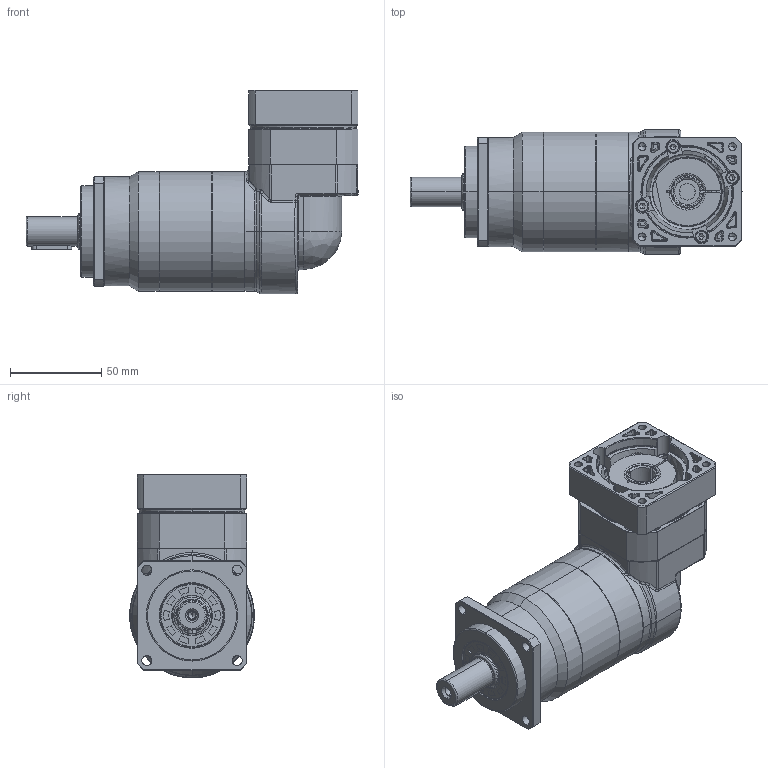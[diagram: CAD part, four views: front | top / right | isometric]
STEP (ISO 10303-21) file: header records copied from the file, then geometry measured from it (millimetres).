
FILE_DESCRIPTION (( 'STEP AP214' ), '1' );
FILE_NAME ('EVB060-L2-S2-P1 14-50-70-M5-33.STEP', '2025-01-09T08:06:05', ( '微软用户' ), ( '微软中国' ), 'SwSTEP 2.0', 'SolidWorks 2021', '' );
FILE_SCHEMA (( 'AUTOMOTIVE_DESIGN' ));
Length unit declared in the file: millimetre
Products named in the file (4): EVT060D-L2-8-38.1-66.7-M4-33; EVB060D-L2-S2-14-50-70-M5-33; EVB060-L2-S2-P1 14-50-70-M5-33; 3.EVT064F眻褒眊极_step_stp_stp.stp
Assembly tree (7 placements, depth 2):
  EVB060-L2-S2-P1 14-50-70-M5-33
    EVB060D-L2-S2-14-50-70-M5-33
    3.EVT064F眻褒眊极_step_stp_stp.stp
    EVT060D-L2-8-38.1-66.7-M4-33  x5
Bounding box: 182 x 68.5 x 111.75 mm (x, y, z)
Volume: 501892.1 mm3; surface area: 124299.2 mm2
Topology: 18 solids, 28 shells, 1452 faces, 3601 edges, 2217 vertices
Faces by surface type: cylinder 437, plane 396, cone 256, bspline 219, torus 144
Entity records: 57487 total; most frequent: CARTESIAN_POINT 27918, ORIENTED_EDGE 6406, DIRECTION 5684, EDGE_CURVE 3207, AXIS2_PLACEMENT_3D 2306, VERTEX_POINT 2005, EDGE_LOOP 1469, ADVANCED_FACE 1324
